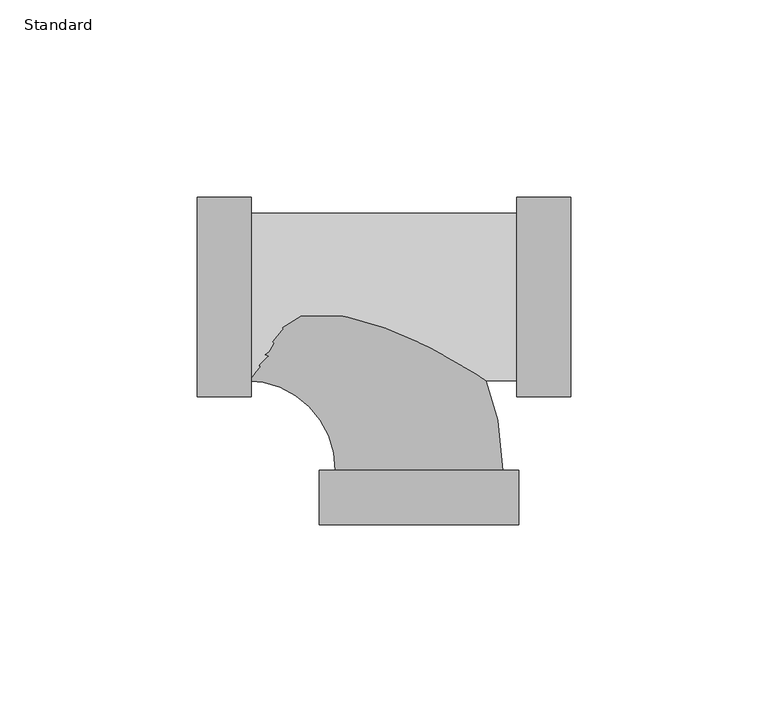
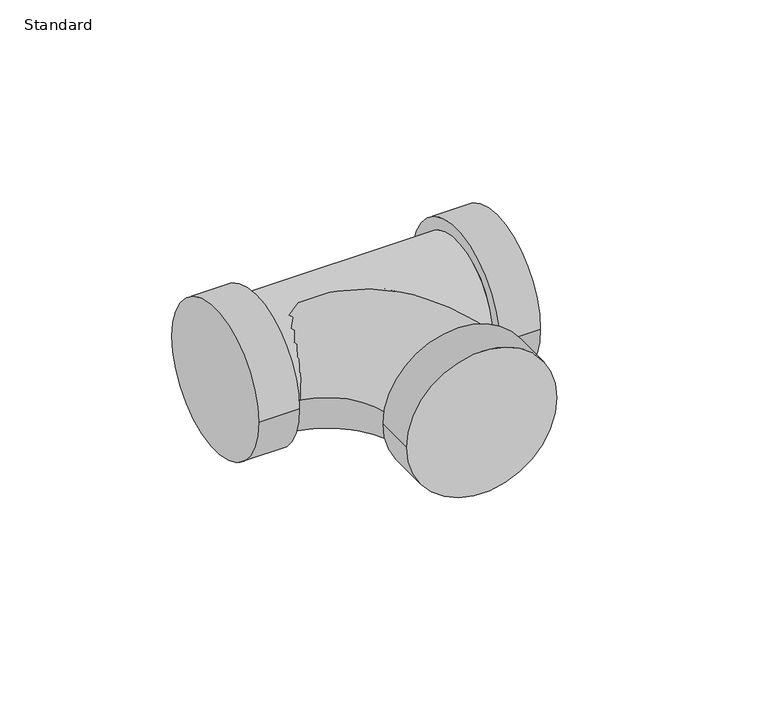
"""IFC4 building model written with IfcOpenShell, lengths in millimetres: pipe fitting geometry, EG-RCAN Té sanitaire de réduction - PVC - Nom. 40 - DWV : Standard."""

from ifc_helpers import new_model, si_unit, point, frame, origin, place, context, project, spatial, circle_curve, ellipse_curve, trimmed, source, transform, mapped, element, save
from ifc_brep_helpers import plane_surface, cylinder_surface, revolved_surface, advanced_brep


def standard_7461a09c(model_context):
    return source(origin(), model_context, "Body", "AdvancedBrep", [
        advanced_brep(
        [(24.710205, -25.2671094, 0.0), (24.710205, 25.2671094, 0.0), (24.710205, -21.2040625, 0.0), (24.710205, 21.2040625, 0.0), (38.4505175, -25.2671094, 0.0), (38.4505175, 25.2671094, 0.0), (-42.5238262, 21.2040625, 0.0), (-42.5238262, -21.2040625, 0.0), (-56.2641387, -25.2671094, 0.0), (-56.2641387, 25.2671094, 0.0), (-42.5238262, -25.2671094, 0.0), (-42.5238262, 25.2671094, 0.0)],
        [
            (0, 1, circle_curve(frame((24.710205, 0.0, 0.0), z_axis=(-1.0, 0.0, 0.0), x_axis=(0.0, 1.0, 0.0)), 25.2671094)),
            (1, 0, circle_curve(frame((24.710205, 0.0, 0.0), z_axis=(-1.0, 0.0, 0.0), x_axis=(0.0, 1.0, 0.0)), 25.2671094)),
            (2, 3, circle_curve(frame((24.710205, 0.0, 0.0), z_axis=(1.0, 0.0, 0.0), x_axis=(0.0, 0.0, -1.0)), 21.2040625)),
            (3, 2, circle_curve(frame((24.710205, 0.0, 0.0), z_axis=(1.0, 0.0, 0.0), x_axis=(0.0, 0.0, 1.0)), 21.2040625)),
            (4, 5, circle_curve(frame((38.4505175, 0.0, 0.0), z_axis=(1.0, 0.0, 0.0), x_axis=(0.0, 1.0, 0.0)), 25.2671094)),
            (5, 4, circle_curve(frame((38.4505175, 0.0, 0.0), z_axis=(1.0, 0.0, 0.0), x_axis=(0.0, 1.0, 0.0)), 25.2671094)),
            (0, 4),
            (5, 1),
            (6, 3),
            (2, 7),
            (7, 6, circle_curve(frame((-42.5238262, 0.0, 0.0), z_axis=(1.0, 0.0, 0.0), x_axis=(0.0, 0.0, -1.0)), 21.2040625)),
            (6, 7, circle_curve(frame((-42.5238262, 0.0, 0.0), z_axis=(1.0, 0.0, 0.0), x_axis=(0.0, 0.0, 1.0)), 21.2040625)),
            (8, 9, circle_curve(frame((-56.2641387, 0.0, 0.0), z_axis=(-1.0, 0.0, 0.0), x_axis=(0.0, 1.0, 0.0)), 25.2671094)),
            (9, 8, circle_curve(frame((-56.2641387, 0.0, 0.0), z_axis=(-1.0, 0.0, 0.0), x_axis=(0.0, 1.0, 0.0)), 25.2671094)),
            (10, 11, circle_curve(frame((-42.5238262, 0.0, 0.0), z_axis=(1.0, 0.0, 0.0), x_axis=(0.0, 1.0, 0.0)), 25.2671094)),
            (11, 10, circle_curve(frame((-42.5238262, 0.0, 0.0), z_axis=(1.0, 0.0, 0.0), x_axis=(0.0, 1.0, 0.0)), 25.2671094)),
            (8, 10),
            (11, 9),
        ],
        [
            plane_surface(frame((24.710205, 0.0, 0.0), z_axis=(-1.0, 0.0, 0.0), x_axis=(0.0, 0.0, 1.0))),
            plane_surface(frame((38.4505175, 0.0, 0.0), z_axis=(1.0, 0.0, 0.0), x_axis=(0.0, 0.0, 1.0))),
            cylinder_surface(frame((24.710205, 0.0, 0.0), z_axis=(-1.0, 0.0, 0.0), x_axis=(0.0, 1.0, 0.0)), 25.2671094),
            cylinder_surface(frame((-42.5238262, 0.0, 0.0), z_axis=(1.0, 0.0, 0.0), x_axis=(0.0, 0.0, -1.0)), 21.2040625),
            cylinder_surface(frame((-42.5238262, 0.0, 0.0), z_axis=(1.0, 0.0, 0.0), x_axis=(0.0, 0.0, 1.0)), 21.2040625),
            plane_surface(frame((-56.2641387, 0.0, 0.0), z_axis=(-1.0, 0.0, 0.0), x_axis=(0.0, 0.0, 1.0))),
            plane_surface(frame((-42.5238262, 0.0, 0.0), z_axis=(1.0, 0.0, 0.0), x_axis=(0.0, 0.0, 1.0))),
            cylinder_surface(frame((-56.2641387, 0.0, 0.0), z_axis=(-1.0, 0.0, 0.0), x_axis=(0.0, 1.0, 0.0)), 25.2671094),
        ],
        [
            (0, [[1, 2], [3, 4]]),
            (1, [[5, 6]]),
            (2, [[-1, 7, -6, 8]]),
            (2, [[-2, -8, -5, -7]]),
            (3, [[9, -3, 10, 11]]),
            (4, [[-9, 12, -10, -4]]),
            (5, [[13, 14]]),
            (6, [[15, 16], [-11, -12]]),
            (7, [[-13, 17, -16, 18]]),
            (7, [[-14, -18, -15, -17]]),
        ],
    ),
        advanced_brep(
        [(-25.2671094, -43.9876563, 0.0), (25.2671094, -43.9876563, 0.0), (21.2040625, -43.9876563, 0.0), (-21.2040625, -43.9876563, 0.0), (-25.2671094, -57.7279688, 0.0), (25.2671094, -57.7279688, 0.0), (-43.9876562, -21.2040625, 0.0), (-43.9876562, 21.2040625, 0.0)],
        [
            (0, 1, circle_curve(frame((0.0, -43.9876563, 0.0), z_axis=(0.0, 1.0, 0.0), x_axis=(1.0, 0.0, 0.0)), 25.2671094)),
            (1, 0, circle_curve(frame((0.0, -43.9876563, 0.0), z_axis=(0.0, 1.0, 0.0), x_axis=(1.0, 0.0, 0.0)), 25.2671094)),
            (2, 3, circle_curve(frame((0.0, -43.9876563, 0.0), z_axis=(0.0, -1.0, 0.0), x_axis=(1.0, 0.0, 0.0)), 21.2040625)),
            (3, 2, circle_curve(frame((0.0, -43.9876563, 0.0), z_axis=(0.0, -1.0, 0.0), x_axis=(1.0, 0.0, 0.0)), 21.2040625)),
            (4, 5, circle_curve(frame((0.0, -57.7279688, 0.0), z_axis=(0.0, -1.0, 0.0), x_axis=(1.0, 0.0, 0.0)), 25.2671094)),
            (5, 4, circle_curve(frame((0.0, -57.7279688, 0.0), z_axis=(0.0, -1.0, 0.0), x_axis=(1.0, 0.0, 0.0)), 25.2671094)),
            (0, 4),
            (5, 1),
            (6, 7, circle_curve(frame((-43.9876562, 0.0, 0.0), z_axis=(-1.0, 0.0, 0.0), x_axis=(0.0, 1.0, 0.0)), 21.2040625)),
            (7, 6, circle_curve(frame((-43.9876562, 0.0, 0.0), z_axis=(-1.0, 0.0, 0.0), x_axis=(0.0, 1.0, 0.0)), 21.2040625)),
            (6, 3, circle_curve(frame((-43.9876562, -43.9876563, 0.0), z_axis=(0.0, 0.0, -1.0), x_axis=(0.0, 1.0, 0.0)), 22.7835938)),
            (2, 7, circle_curve(frame((-43.9876562, -43.9876563, 0.0), z_axis=(0.0, 0.0, 1.0), x_axis=(0.0, 1.0, 0.0)), 65.1917188)),
        ],
        [
            plane_surface(frame((0.0, -43.9876563, 0.0), z_axis=(0.0, 1.0, 0.0), x_axis=(0.0, 0.0, 1.0))),
            plane_surface(frame((0.0, -57.7279688, 0.0), z_axis=(0.0, -1.0, 0.0), x_axis=(0.0, 0.0, 1.0))),
            cylinder_surface(frame((0.0, -43.9876563, 0.0), z_axis=(0.0, 1.0, 0.0), x_axis=(1.0, 0.0, 0.0)), 25.2671094),
            plane_surface(frame((-43.9876562, 0.0, 0.0), z_axis=(-1.0, 0.0, 0.0), x_axis=(0.0, 0.0, 1.0))),
            revolved_surface(trimmed(ellipse_curve(frame((-43.9876562, 0.0, 0.0), z_axis=(-1.0, 0.0, 0.0), x_axis=(0.0, 1.0, 0.0)), 21.2040625, 21.2040625), [point((-43.9876562, -21.2040625, 0.0))], [point((-43.9876562, 21.2040625, 0.0))], True, "CARTESIAN"), (-43.9876562, -43.9876563, 0.0), (0.0, 0.0, -1.0)),
            revolved_surface(trimmed(ellipse_curve(frame((-43.9876562, 0.0, 0.0), z_axis=(-1.0, 0.0, 0.0), x_axis=(0.0, 1.0, 0.0)), 21.2040625, 21.2040625), [point((-43.9876562, 21.2040625, 0.0))], [point((-43.9876562, -21.2040625, 0.0))], True, "CARTESIAN"), (-43.9876562, -43.9876563, 0.0), (0.0, 0.0, -1.0)),
        ],
        [
            (0, [[1, 2], [3, 4]]),
            (1, [[5, 6]]),
            (2, [[-1, 7, -6, 8]]),
            (2, [[-2, -8, -5, -7]]),
            (3, [[9, 10]]),
            (4, [[-9, 11, -3, 12]]),
            (5, [[-10, -12, -4, -11]]),
        ],
    ),
    ])


if __name__ == "__main__":
    model = new_model("IFC4")
    model_context = context("Model", 3, world=origin())
    ifc_project = project(units=[si_unit("LENGTHUNIT", "METRE", prefix="MILLI")], contexts=[model_context])
    site = spatial("IfcSite", under=ifc_project)
    building = spatial("IfcBuilding", under=site)
    placement = place(None, origin())
    standard_shape = standard_7461a09c(model_context)
    element("IfcPipeFitting", 1, ObjectType="EG-RCAN Té sanitaire de réduction - PVC - Nom. 40 - DWV : Standard", at=placement, inside=building, context=model_context, shape_type="MappedRepresentation", body=[
        mapped(standard_shape, transform((0.0, 0.0, 0.0), x_axis=(1.0, 0.0, 0.0), y_axis=(0.0, 1.0, 0.0), z_axis=(0.0, 0.0, 1.0))),
    ])
    save(model, "model.ifc")
